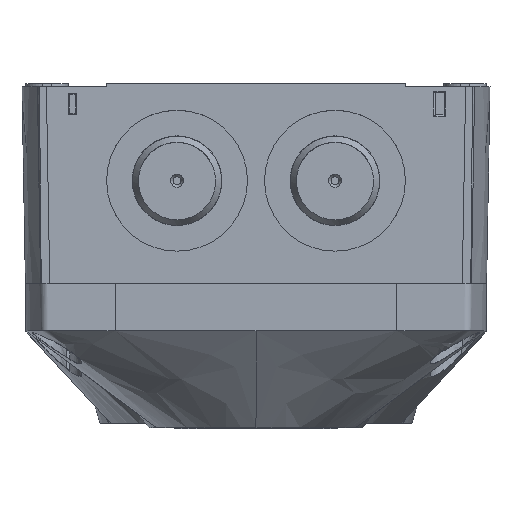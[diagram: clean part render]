
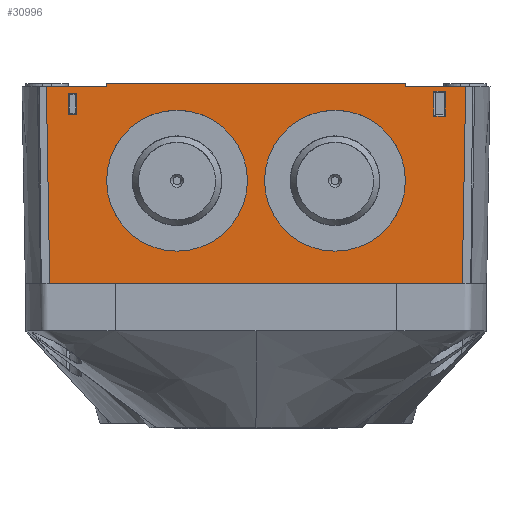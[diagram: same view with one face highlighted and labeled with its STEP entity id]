
A CAD part, top view. The second image highlights one B-rep face of the part: STEP entity #30996.
In plain terms, the highlighted planar face has unit normal (0, 0, 1).
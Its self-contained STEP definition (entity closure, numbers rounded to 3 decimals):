
#1985 = DIRECTION ( 'NONE',  ( 0.004, 1., 0. ) ) ;
#2369 = VECTOR ( 'NONE', #1985, 1000. ) ;
#2408 = LINE ( 'NONE', #2452, #2369 ) ;
#2452 = CARTESIAN_POINT ( 'NONE',  ( -35., 46., 129.4 ) ) ;
#22030 = CARTESIAN_POINT ( 'NONE',  ( -44., 39.5, 129.4 ) ) ;
#24343 = CARTESIAN_POINT ( 'NONE',  ( 41.651, 39.101, 129.4 ) ) ;
#24389 = CARTESIAN_POINT ( 'NONE',  ( -49.103, 46., 129.4 ) ) ;
#24434 = CARTESIAN_POINT ( 'NONE',  ( -48.3, 0., 129.4 ) ) ;
#24496 = CARTESIAN_POINT ( 'NONE',  ( 44.349, 44.899, 129.4 ) ) ;
#24596 = DIRECTION ( 'NONE',  ( 0.004, -1., 0. ) ) ;
#24597 = VECTOR ( 'NONE', #24596, 1000. ) ;
#24598 = CARTESIAN_POINT ( 'NONE',  ( 35., 46., 129.4 ) ) ;
#24603 = LINE ( 'NONE', #24598, #24597 ) ;
#24606 = DIRECTION ( 'NONE',  ( -0.017, 1., 0. ) ) ;
#24607 = VECTOR ( 'NONE', #24606, 1000. ) ;
#24608 = CARTESIAN_POINT ( 'NONE',  ( -48.3, 0., 129.4 ) ) ;
#24609 = LINE ( 'NONE', #24608, #24607 ) ;
#24636 = CIRCLE ( 'NONE', #24692, 16.5 ) ;
#24666 = CARTESIAN_POINT ( 'NONE',  ( -34.997, 46.8, 129.4 ) ) ;
#24691 = DIRECTION ( 'NONE',  ( 1., 0., 0. ) ) ;
#24692 = AXIS2_PLACEMENT_3D ( 'NONE', #24697, #24698, #24691 ) ;
#24697 = CARTESIAN_POINT ( 'NONE',  ( -18.5, 24., 129.4 ) ) ;
#24698 = DIRECTION ( 'NONE',  ( 0., 0., 1. ) ) ;
#24738 = DIRECTION ( 'NONE',  ( 1., 0., 0. ) ) ;
#24739 = VECTOR ( 'NONE', #24738, 1000. ) ;
#24741 = CARTESIAN_POINT ( 'NONE',  ( 35., 46.8, 129.4 ) ) ;
#24743 = LINE ( 'NONE', #24741, #24739 ) ;
#24756 = CARTESIAN_POINT ( 'NONE',  ( 35., 46., 129.4 ) ) ;
#24763 = CARTESIAN_POINT ( 'NONE',  ( -44., 44.5, 129.4 ) ) ;
#24785 = CARTESIAN_POINT ( 'NONE',  ( -42., 44.5, 129.4 ) ) ;
#24786 = CARTESIAN_POINT ( 'NONE',  ( 34.997, 46.8, 129.4 ) ) ;
#24811 = VECTOR ( 'NONE', #24877, 1000. ) ;
#24828 = LINE ( 'NONE', #24785, #24811 ) ;
#24830 = CARTESIAN_POINT ( 'NONE',  ( -42., 39.5, 129.4 ) ) ;
#24877 = DIRECTION ( 'NONE',  ( 0., 1., 0. ) ) ;
#24889 = DIRECTION ( 'NONE',  ( 1., 0., 0. ) ) ;
#24891 = VECTOR ( 'NONE', #24889, 1000. ) ;
#24893 = LINE ( 'NONE', #24938, #24891 ) ;
#24938 = CARTESIAN_POINT ( 'NONE',  ( -44., 39.5, 129.4 ) ) ;
#25098 = DIRECTION ( 'NONE',  ( 0., -1., 0. ) ) ;
#25099 = VECTOR ( 'NONE', #25098, 1000. ) ;
#25100 = LINE ( 'NONE', #25126, #25099 ) ;
#25109 = DIRECTION ( 'NONE',  ( -1., 0., 0. ) ) ;
#25111 = VECTOR ( 'NONE', #25109, 1000. ) ;
#25112 = CARTESIAN_POINT ( 'NONE',  ( -44., 44.5, 129.4 ) ) ;
#25113 = LINE ( 'NONE', #25112, #25111 ) ;
#25126 = CARTESIAN_POINT ( 'NONE',  ( -44., 39.5, 129.4 ) ) ;
#25133 = CARTESIAN_POINT ( 'NONE',  ( -42., 44.5, 129.4 ) ) ;
#25148 = CIRCLE ( 'NONE', #25274, 16.5 ) ;
#25152 = CARTESIAN_POINT ( 'NONE',  ( 18.5, 24., 129.4 ) ) ;
#25253 = DIRECTION ( 'NONE',  ( 1., 0., 0. ) ) ;
#25254 = DIRECTION ( 'NONE',  ( 0., 0., 1. ) ) ;
#25274 = AXIS2_PLACEMENT_3D ( 'NONE', #25152, #25254, #25253 ) ;
#30577 = VERTEX_POINT ( 'NONE', #22030 ) ;
#30638 = ORIENTED_EDGE ( 'NONE', *, *, #30697, .T. ) ;
#30639 = EDGE_CURVE ( 'NONE', #30703, #30695, #32999, .T. ) ;
#30641 = EDGE_CURVE ( 'NONE', #30734, #30644, #32994, .T. ) ;
#30642 = VERTEX_POINT ( 'NONE', #32996 ) ;
#30643 = EDGE_CURVE ( 'NONE', #30644, #30703, #32995, .T. ) ;
#30644 = VERTEX_POINT ( 'NONE', #32989 ) ;
#30646 = EDGE_LOOP ( 'NONE', ( #30698 ) ) ;
#30670 = EDGE_LOOP ( 'NONE', ( #30671, #30958, #31020, #30638 ) ) ;
#30671 = ORIENTED_EDGE ( 'NONE', *, *, #30641, .T. ) ;
#30672 = ORIENTED_EDGE ( 'NONE', *, *, #30686, .F. ) ;
#30673 = EDGE_CURVE ( 'NONE', #30689, #30789, #33063, .T. ) ;
#30674 = ORIENTED_EDGE ( 'NONE', *, *, #30813, .F. ) ;
#30676 = ORIENTED_EDGE ( 'NONE', *, *, #30785, .F. ) ;
#30677 = EDGE_LOOP ( 'NONE', ( #30681 ) ) ;
#30679 = ORIENTED_EDGE ( 'NONE', *, *, #30851, .F. ) ;
#30680 = ORIENTED_EDGE ( 'NONE', *, *, #30825, .F. ) ;
#30681 = ORIENTED_EDGE ( 'NONE', *, *, #30755, .F. ) ;
#30683 = ORIENTED_EDGE ( 'NONE', *, *, #30959, .T. ) ;
#30684 = ORIENTED_EDGE ( 'NONE', *, *, #30741, .F. ) ;
#30685 = ORIENTED_EDGE ( 'NONE', *, *, #30673, .T. ) ;
#30686 = EDGE_CURVE ( 'NONE', #30689, #30642, #33073, .T. ) ;
#30687 = ORIENTED_EDGE ( 'NONE', *, *, #30780, .F. ) ;
#30689 = VERTEX_POINT ( 'NONE', #33117 ) ;
#30691 = ORIENTED_EDGE ( 'NONE', *, *, #30745, .F. ) ;
#30692 = EDGE_LOOP ( 'NONE', ( #30693, #30684, #30683, #30672, #30685, #30691, #30676, #30687 ) ) ;
#30693 = ORIENTED_EDGE ( 'NONE', *, *, #30694, .T. ) ;
#30694 = EDGE_CURVE ( 'NONE', #30782, #30717, #33115, .T. ) ;
#30695 = VERTEX_POINT ( 'NONE', #33113 ) ;
#30697 = EDGE_CURVE ( 'NONE', #30695, #30734, #33109, .T. ) ;
#30698 = ORIENTED_EDGE ( 'NONE', *, *, #30866, .F. ) ;
#30699 = EDGE_LOOP ( 'NONE', ( #30680, #30679, #30941, #30674 ) ) ;
#30703 = VERTEX_POINT ( 'NONE', #24343 ) ;
#30717 = VERTEX_POINT ( 'NONE', #24389 ) ;
#30723 = VERTEX_POINT ( 'NONE', #24434 ) ;
#30734 = VERTEX_POINT ( 'NONE', #24496 ) ;
#30741 = EDGE_CURVE ( 'NONE', #30723, #30717, #24609, .T. ) ;
#30745 = EDGE_CURVE ( 'NONE', #30804, #30789, #24603, .T. ) ;
#30755 = EDGE_CURVE ( 'NONE', #36612, #36612, #24636, .T. ) ;
#30772 = VERTEX_POINT ( 'NONE', #24666 ) ;
#30780 = EDGE_CURVE ( 'NONE', #30782, #30772, #2408, .T. ) ;
#30782 = VERTEX_POINT ( 'NONE', #33102 ) ;
#30785 = EDGE_CURVE ( 'NONE', #30772, #30804, #24743, .T. ) ;
#30789 = VERTEX_POINT ( 'NONE', #24756 ) ;
#30804 = VERTEX_POINT ( 'NONE', #24786 ) ;
#30806 = VERTEX_POINT ( 'NONE', #24763 ) ;
#30811 = VERTEX_POINT ( 'NONE', #24830 ) ;
#30813 = EDGE_CURVE ( 'NONE', #30811, #30841, #24828, .T. ) ;
#30825 = EDGE_CURVE ( 'NONE', #30577, #30811, #24893, .T. ) ;
#30841 = VERTEX_POINT ( 'NONE', #25133 ) ;
#30846 = EDGE_CURVE ( 'NONE', #30841, #30806, #25113, .T. ) ;
#30851 = EDGE_CURVE ( 'NONE', #30806, #30577, #25100, .T. ) ;
#30866 = EDGE_CURVE ( 'NONE', #36600, #36600, #25148, .T. ) ;
#30941 = ORIENTED_EDGE ( 'NONE', *, *, #30846, .F. ) ;
#30958 = ORIENTED_EDGE ( 'NONE', *, *, #30643, .T. ) ;
#30959 = EDGE_CURVE ( 'NONE', #30723, #30642, #33312, .T. ) ;
#30996 = ADVANCED_FACE ( 'NONE', ( #33349, #33369, #33367, #33345, #33365 ), #33348, .F. ) ;
#31020 = ORIENTED_EDGE ( 'NONE', *, *, #30639, .T. ) ;
#32965 = CARTESIAN_POINT ( 'NONE',  ( 41.651, 46.8, 129.4 ) ) ;
#32986 = DIRECTION ( 'NONE',  ( -1., 0., 0. ) ) ;
#32987 = VECTOR ( 'NONE', #32986, 1000. ) ;
#32988 = CARTESIAN_POINT ( 'NONE',  ( 75., 39.101, 129.4 ) ) ;
#32989 = CARTESIAN_POINT ( 'NONE',  ( 44.349, 39.101, 129.4 ) ) ;
#32991 = DIRECTION ( 'NONE',  ( 0., -1., 0. ) ) ;
#32992 = VECTOR ( 'NONE', #32991, 1000. ) ;
#32993 = CARTESIAN_POINT ( 'NONE',  ( 44.349, 46.8, 129.4 ) ) ;
#32994 = LINE ( 'NONE', #32993, #32992 ) ;
#32995 = LINE ( 'NONE', #32988, #32987 ) ;
#32996 = CARTESIAN_POINT ( 'NONE',  ( 48.3, 0., 129.4 ) ) ;
#32997 = DIRECTION ( 'NONE',  ( 0., 1., 0. ) ) ;
#32998 = VECTOR ( 'NONE', #32997, 1000. ) ;
#32999 = LINE ( 'NONE', #32965, #32998 ) ;
#33063 = LINE ( 'NONE', #33084, #33075 ) ;
#33073 = LINE ( 'NONE', #33078, #33077 ) ;
#33075 = VECTOR ( 'NONE', #33083, 1000. ) ;
#33076 = DIRECTION ( 'NONE',  ( -0.017, -1., 0. ) ) ;
#33077 = VECTOR ( 'NONE', #33076, 1000. ) ;
#33078 = CARTESIAN_POINT ( 'NONE',  ( 48.3, 0., 129.4 ) ) ;
#33083 = DIRECTION ( 'NONE',  ( -1., 0., 0. ) ) ;
#33084 = CARTESIAN_POINT ( 'NONE',  ( 6., 46., 129.4 ) ) ;
#33102 = CARTESIAN_POINT ( 'NONE',  ( -35., 46., 129.4 ) ) ;
#33103 = DIRECTION ( 'NONE',  ( 1., 0., 0. ) ) ;
#33104 = VECTOR ( 'NONE', #33103, 1000. ) ;
#33109 = LINE ( 'NONE', #33112, #33104 ) ;
#33110 = DIRECTION ( 'NONE',  ( -1., 0., 0. ) ) ;
#33111 = VECTOR ( 'NONE', #33110, 1000. ) ;
#33112 = CARTESIAN_POINT ( 'NONE',  ( 75., 44.899, 129.4 ) ) ;
#33113 = CARTESIAN_POINT ( 'NONE',  ( 41.651, 44.899, 129.4 ) ) ;
#33114 = CARTESIAN_POINT ( 'NONE',  ( 6., 46., 129.4 ) ) ;
#33115 = LINE ( 'NONE', #33114, #33111 ) ;
#33117 = CARTESIAN_POINT ( 'NONE',  ( 49.103, 46., 129.4 ) ) ;
#33281 = CARTESIAN_POINT ( 'NONE',  ( 6., 0., 129.4 ) ) ;
#33310 = DIRECTION ( 'NONE',  ( 1., 0., 0. ) ) ;
#33311 = VECTOR ( 'NONE', #33310, 1000. ) ;
#33312 = LINE ( 'NONE', #33281, #33311 ) ;
#33345 = FACE_BOUND ( 'NONE', #30646, .T. ) ;
#33348 = PLANE ( 'NONE',  #33364 ) ;
#33349 = FACE_BOUND ( 'NONE', #30670, .T. ) ;
#33364 = AXIS2_PLACEMENT_3D ( 'NONE', #33373, #33372, #33371 ) ;
#33365 = FACE_BOUND ( 'NONE', #30699, .T. ) ;
#33367 = FACE_BOUND ( 'NONE', #30677, .T. ) ;
#33369 = FACE_OUTER_BOUND ( 'NONE', #30692, .T. ) ;
#33371 = DIRECTION ( 'NONE',  ( -1., 0., 0. ) ) ;
#33372 = DIRECTION ( 'NONE',  ( 0., 0., -1. ) ) ;
#33373 = CARTESIAN_POINT ( 'NONE',  ( 75., 46.8, 129.4 ) ) ;
#36597 = CARTESIAN_POINT ( 'NONE',  ( 35., 24., 129.4 ) ) ;
#36600 = VERTEX_POINT ( 'NONE', #36597 ) ;
#36609 = CARTESIAN_POINT ( 'NONE',  ( -2., 24., 129.4 ) ) ;
#36612 = VERTEX_POINT ( 'NONE', #36609 ) ;
